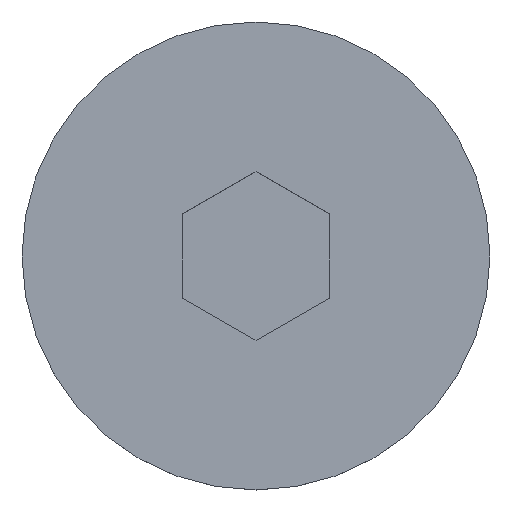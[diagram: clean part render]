
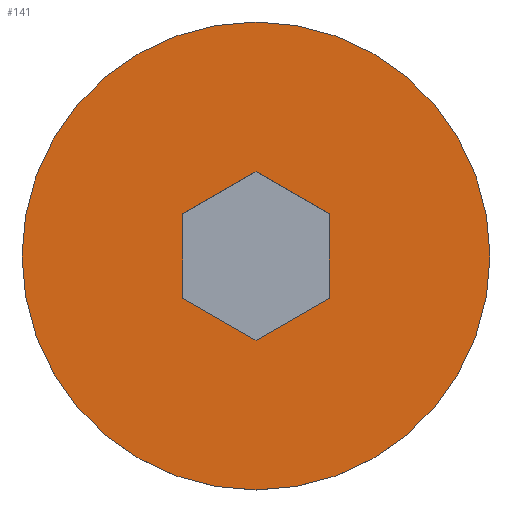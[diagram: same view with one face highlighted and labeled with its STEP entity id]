
A CAD part, top view. The second image highlights one B-rep face of the part: STEP entity #141.
In plain terms, the highlighted planar face has unit normal (0, 0, 1).
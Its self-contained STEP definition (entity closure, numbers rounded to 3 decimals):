
#7 = EDGE_CURVE ( 'NONE', #389, #143, #229, .T. ) ;
#9 = EDGE_CURVE ( 'NONE', #143, #25, #325, .T. ) ;
#10 = CARTESIAN_POINT ( 'NONE',  ( -3., -1.732, 5.22 ) ) ;
#25 = VERTEX_POINT ( 'NONE', #10 ) ;
#26 = CARTESIAN_POINT ( 'NONE',  ( 3., -1.732, 5.22 ) ) ;
#27 = DIRECTION ( 'NONE',  ( 0.866, -0.5, 0. ) ) ;
#40 = VECTOR ( 'NONE', #112, 1000. ) ;
#43 = EDGE_LOOP ( 'NONE', ( #48, #301 ) ) ;
#46 = CARTESIAN_POINT ( 'NONE',  ( -3., 1.732, 5.22 ) ) ;
#48 = ORIENTED_EDGE ( 'NONE', *, *, #145, .F. ) ;
#53 = DIRECTION ( 'NONE',  ( 0., 0., -1. ) ) ;
#65 = DIRECTION ( 'NONE',  ( 0., 0., -1. ) ) ;
#67 = CARTESIAN_POINT ( 'NONE',  ( 0., 0., 5.22 ) ) ;
#71 = CARTESIAN_POINT ( 'NONE',  ( 3., -1.732, 5.22 ) ) ;
#76 = CARTESIAN_POINT ( 'NONE',  ( -3., -1.732, 5.22 ) ) ;
#79 = LINE ( 'NONE', #71, #223 ) ;
#80 = LINE ( 'NONE', #106, #422 ) ;
#87 = CARTESIAN_POINT ( 'NONE',  ( 0., 3.464, 5.22 ) ) ;
#91 = DIRECTION ( 'NONE',  ( -0.866, -0.5, 0. ) ) ;
#106 = CARTESIAN_POINT ( 'NONE',  ( 0., -3.464, 5.22 ) ) ;
#111 = CARTESIAN_POINT ( 'NONE',  ( 3., 1.732, 5.22 ) ) ;
#112 = DIRECTION ( 'NONE',  ( -0.866, 0.5, 0. ) ) ;
#120 = AXIS2_PLACEMENT_3D ( 'NONE', #259, #221, #225 ) ;
#137 = ORIENTED_EDGE ( 'NONE', *, *, #9, .F. ) ;
#138 = CARTESIAN_POINT ( 'NONE',  ( 9.61, 0., 5.22 ) ) ;
#141 = ADVANCED_FACE ( 'NONE', ( #320, #146 ), #392, .T. ) ;
#143 = VERTEX_POINT ( 'NONE', #363 ) ;
#145 = EDGE_CURVE ( 'NONE', #317, #339, #367, .T. ) ;
#146 = FACE_OUTER_BOUND ( 'NONE', #43, .T. ) ;
#152 = AXIS2_PLACEMENT_3D ( 'NONE', #67, #65, #400 ) ;
#157 = ORIENTED_EDGE ( 'NONE', *, *, #388, .F. ) ;
#198 = AXIS2_PLACEMENT_3D ( 'NONE', #262, #53, #424 ) ;
#202 = VECTOR ( 'NONE', #27, 1000. ) ;
#211 = ORIENTED_EDGE ( 'NONE', *, *, #445, .F. ) ;
#221 = DIRECTION ( 'NONE',  ( 0., 0., 1. ) ) ;
#223 = VECTOR ( 'NONE', #315, 1000. ) ;
#225 = DIRECTION ( 'NONE',  ( 1., 0., 0. ) ) ;
#229 = LINE ( 'NONE', #87, #282 ) ;
#235 = LINE ( 'NONE', #352, #40 ) ;
#252 = CIRCLE ( 'NONE', #152, 9.61 ) ;
#259 = CARTESIAN_POINT ( 'NONE',  ( -9.61, 0., 5.22 ) ) ;
#262 = CARTESIAN_POINT ( 'NONE',  ( 0., 0., 5.22 ) ) ;
#273 = DIRECTION ( 'NONE',  ( 0.866, 0.5, 0. ) ) ;
#279 = ORIENTED_EDGE ( 'NONE', *, *, #431, .F. ) ;
#282 = VECTOR ( 'NONE', #91, 1000. ) ;
#292 = LINE ( 'NONE', #76, #202 ) ;
#294 = VECTOR ( 'NONE', #359, 1000. ) ;
#301 = ORIENTED_EDGE ( 'NONE', *, *, #314, .F. ) ;
#303 = ORIENTED_EDGE ( 'NONE', *, *, #346, .F. ) ;
#308 = VERTEX_POINT ( 'NONE', #403 ) ;
#314 = EDGE_CURVE ( 'NONE', #339, #317, #252, .T. ) ;
#315 = DIRECTION ( 'NONE',  ( 0., 1., 0. ) ) ;
#317 = VERTEX_POINT ( 'NONE', #437 ) ;
#320 = FACE_BOUND ( 'NONE', #328, .T. ) ;
#321 = VERTEX_POINT ( 'NONE', #26 ) ;
#325 = LINE ( 'NONE', #46, #294 ) ;
#328 = EDGE_LOOP ( 'NONE', ( #279, #211, #303, #157, #137, #357 ) ) ;
#339 = VERTEX_POINT ( 'NONE', #138 ) ;
#346 = EDGE_CURVE ( 'NONE', #308, #321, #80, .T. ) ;
#351 = VERTEX_POINT ( 'NONE', #111 ) ;
#352 = CARTESIAN_POINT ( 'NONE',  ( 3., 1.732, 5.22 ) ) ;
#357 = ORIENTED_EDGE ( 'NONE', *, *, #7, .F. ) ;
#359 = DIRECTION ( 'NONE',  ( 0., -1., 0. ) ) ;
#363 = CARTESIAN_POINT ( 'NONE',  ( -3., 1.732, 5.22 ) ) ;
#367 = CIRCLE ( 'NONE', #198, 9.61 ) ;
#380 = CARTESIAN_POINT ( 'NONE',  ( 0., 3.464, 5.22 ) ) ;
#388 = EDGE_CURVE ( 'NONE', #25, #308, #292, .T. ) ;
#389 = VERTEX_POINT ( 'NONE', #380 ) ;
#392 = PLANE ( 'NONE',  #120 ) ;
#400 = DIRECTION ( 'NONE',  ( -1., 0., 0. ) ) ;
#403 = CARTESIAN_POINT ( 'NONE',  ( 0., -3.464, 5.22 ) ) ;
#422 = VECTOR ( 'NONE', #273, 1000. ) ;
#424 = DIRECTION ( 'NONE',  ( -1., 0., 0. ) ) ;
#431 = EDGE_CURVE ( 'NONE', #351, #389, #235, .T. ) ;
#437 = CARTESIAN_POINT ( 'NONE',  ( -9.61, 0., 5.22 ) ) ;
#445 = EDGE_CURVE ( 'NONE', #321, #351, #79, .T. ) ;
